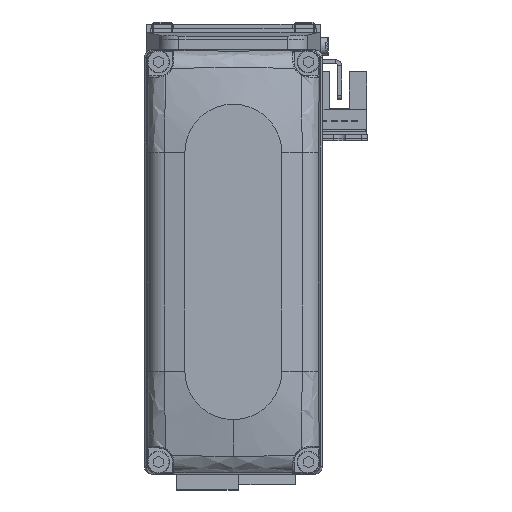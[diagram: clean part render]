
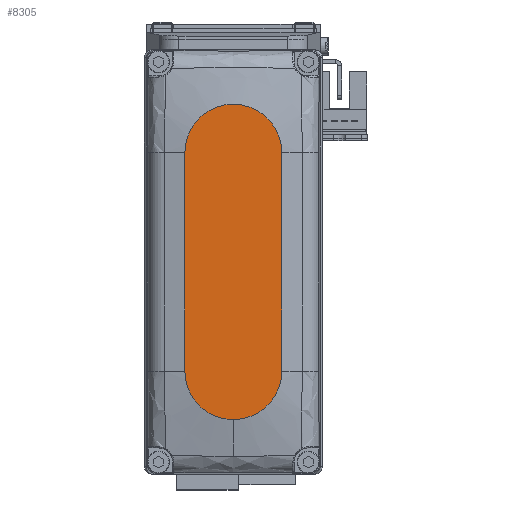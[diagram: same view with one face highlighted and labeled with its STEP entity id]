
A CAD part, top view. The second image highlights one B-rep face of the part: STEP entity #8305.
In plain terms, the highlighted planar face has unit normal (0, 0, 1).
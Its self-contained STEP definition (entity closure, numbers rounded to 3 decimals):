
#2004 = CARTESIAN_POINT ( 'NONE',  ( 27., 0., 25. ) ) ;
#2807 = PLANE ( 'NONE',  #9202 ) ;
#3689 = LINE ( 'NONE', #15868, #16063 ) ;
#3811 = DIRECTION ( 'NONE',  ( 1., 0., 0. ) ) ;
#3908 = CARTESIAN_POINT ( 'NONE',  ( -27., 12., 25. ) ) ;
#4604 = CARTESIAN_POINT ( 'NONE',  ( 27., 0., 25. ) ) ;
#4827 = VERTEX_POINT ( 'NONE', #9577 ) ;
#4839 = EDGE_LOOP ( 'NONE', ( #35345, #33829, #16329, #13135, #26021 ) ) ;
#5356 = CARTESIAN_POINT ( 'NONE',  ( 27., 12., 25. ) ) ;
#5703 = EDGE_CURVE ( 'NONE', #16289, #27572, #27215, .T. ) ;
#7496 = CARTESIAN_POINT ( 'NONE',  ( 27., -12., 25. ) ) ;
#8305 = ADVANCED_FACE ( 'NONE', ( #30201 ), #2807, .T. ) ;
#9202 = AXIS2_PLACEMENT_3D ( 'NONE', #14983, #27185, #39412 ) ;
#9577 = CARTESIAN_POINT ( 'NONE',  ( -27., -12., 25. ) ) ;
#9981 = AXIS2_PLACEMENT_3D ( 'NONE', #4604, #16785, #28989 ) ;
#10819 = DIRECTION ( 'NONE',  ( -1., 0., 0. ) ) ;
#11652 = VECTOR ( 'NONE', #10819, 1000. ) ;
#13135 = ORIENTED_EDGE ( 'NONE', *, *, #37082, .T. ) ;
#14182 = DIRECTION ( 'NONE',  ( 0., 0., 1. ) ) ;
#14607 = EDGE_CURVE ( 'NONE', #27572, #29291, #26008, .T. ) ;
#14983 = CARTESIAN_POINT ( 'NONE',  ( 0., 0., 25. ) ) ;
#15868 = CARTESIAN_POINT ( 'NONE',  ( -27., -12., 25. ) ) ;
#16063 = VECTOR ( 'NONE', #28061, 1000. ) ;
#16289 = VERTEX_POINT ( 'NONE', #19186 ) ;
#16329 = ORIENTED_EDGE ( 'NONE', *, *, #35106, .T. ) ;
#16379 = CIRCLE ( 'NONE', #38748, 12. ) ;
#16785 = DIRECTION ( 'NONE',  ( 0., 0., 1. ) ) ;
#18983 = CARTESIAN_POINT ( 'NONE',  ( -27., 0., 25. ) ) ;
#19186 = CARTESIAN_POINT ( 'NONE',  ( 39., 0., 25. ) ) ;
#19737 = AXIS2_PLACEMENT_3D ( 'NONE', #2004, #14182, #26382 ) ;
#21676 = EDGE_CURVE ( 'NONE', #29291, #4827, #16379, .T. ) ;
#26008 = LINE ( 'NONE', #38236, #11652 ) ;
#26021 = ORIENTED_EDGE ( 'NONE', *, *, #5703, .T. ) ;
#26382 = DIRECTION ( 'NONE',  ( 1., 0., 0. ) ) ;
#27185 = DIRECTION ( 'NONE',  ( 0., 0., 1. ) ) ;
#27215 = CIRCLE ( 'NONE', #9981, 12. ) ;
#27572 = VERTEX_POINT ( 'NONE', #5356 ) ;
#28061 = DIRECTION ( 'NONE',  ( 1., 0., 0. ) ) ;
#28989 = DIRECTION ( 'NONE',  ( 1., 0., 0. ) ) ;
#29291 = VERTEX_POINT ( 'NONE', #3908 ) ;
#30201 = FACE_OUTER_BOUND ( 'NONE', #4839, .T. ) ;
#31202 = VERTEX_POINT ( 'NONE', #7496 ) ;
#31205 = DIRECTION ( 'NONE',  ( 0., 0., 1. ) ) ;
#33829 = ORIENTED_EDGE ( 'NONE', *, *, #21676, .T. ) ;
#35106 = EDGE_CURVE ( 'NONE', #4827, #31202, #3689, .T. ) ;
#35345 = ORIENTED_EDGE ( 'NONE', *, *, #14607, .T. ) ;
#36997 = CIRCLE ( 'NONE', #19737, 12. ) ;
#37082 = EDGE_CURVE ( 'NONE', #31202, #16289, #36997, .T. ) ;
#38236 = CARTESIAN_POINT ( 'NONE',  ( -27., 12., 25. ) ) ;
#38748 = AXIS2_PLACEMENT_3D ( 'NONE', #18983, #31205, #3811 ) ;
#39412 = DIRECTION ( 'NONE',  ( 1., 0., 0. ) ) ;
